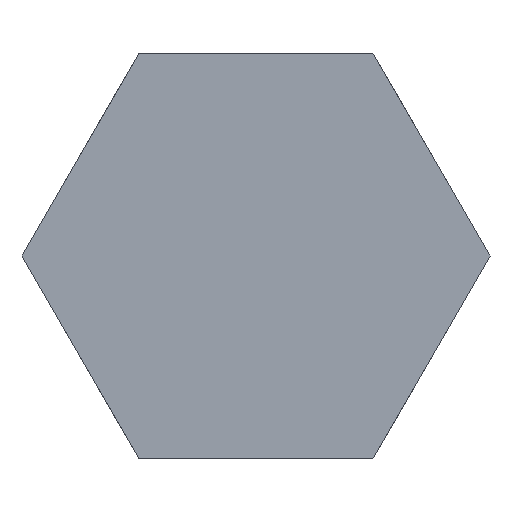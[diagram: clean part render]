
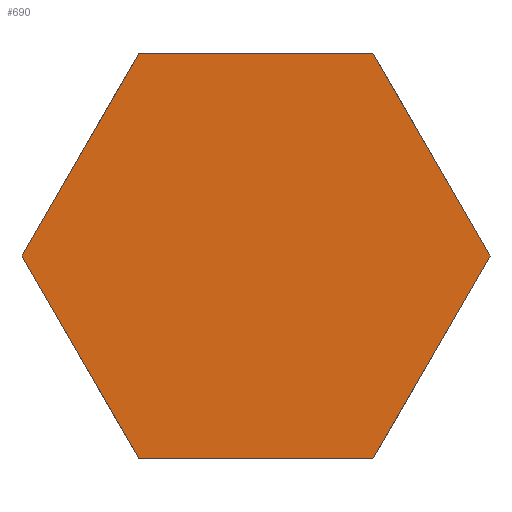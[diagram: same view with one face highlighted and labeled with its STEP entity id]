
A CAD part, front view. The second image highlights one B-rep face of the part: STEP entity #690.
In plain terms, the highlighted planar face has unit normal (0, -1, 0) as drawn and (0, 1, 0) by its records, which use the part's own axes.
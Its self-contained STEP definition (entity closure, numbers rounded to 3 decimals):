
#16 = CARTESIAN_POINT ( 'NONE',  ( 13.856, 10., 0. ) ) ;
#29 = LINE ( 'NONE', #16, #1212 ) ;
#38 = LINE ( 'NONE', #60, #1183 ) ;
#53 = DIRECTION ( 'NONE',  ( -0.5, 0., -0.866 ) ) ;
#60 = CARTESIAN_POINT ( 'NONE',  ( -6.928, 10., 12. ) ) ;
#73 = DIRECTION ( 'NONE',  ( 1., 0., 0. ) ) ;
#143 = CARTESIAN_POINT ( 'NONE',  ( -6.928, 10., -12. ) ) ;
#154 = FACE_OUTER_BOUND ( 'NONE', #420, .T. ) ;
#168 = DIRECTION ( 'NONE',  ( -0.5, 0., 0.866 ) ) ;
#182 = CARTESIAN_POINT ( 'NONE',  ( -13.856, 10., 0. ) ) ;
#194 = DIRECTION ( 'NONE',  ( 0., 0., 1. ) ) ;
#200 = LINE ( 'NONE', #143, #1249 ) ;
#233 = PLANE ( 'NONE',  #1213 ) ;
#243 = DIRECTION ( 'NONE',  ( 0., 1., 0. ) ) ;
#323 = VERTEX_POINT ( 'NONE', #1127 ) ;
#331 = ORIENTED_EDGE ( 'NONE', *, *, #659, .T. ) ;
#335 = VERTEX_POINT ( 'NONE', #339 ) ;
#339 = CARTESIAN_POINT ( 'NONE',  ( -6.928, 10., -12. ) ) ;
#348 = VERTEX_POINT ( 'NONE', #1150 ) ;
#408 = ORIENTED_EDGE ( 'NONE', *, *, #619, .T. ) ;
#420 = EDGE_LOOP ( 'NONE', ( #1146, #484, #1036, #408, #331, #1108 ) ) ;
#436 = VERTEX_POINT ( 'NONE', #1070 ) ;
#484 = ORIENTED_EDGE ( 'NONE', *, *, #613, .T. ) ;
#499 = VERTEX_POINT ( 'NONE', #1038 ) ;
#502 = VERTEX_POINT ( 'NONE', #1061 ) ;
#613 = EDGE_CURVE ( 'NONE', #436, #499, #1046, .T. ) ;
#614 = EDGE_CURVE ( 'NONE', #323, #335, #1042, .T. ) ;
#619 = EDGE_CURVE ( 'NONE', #348, #502, #1052, .T. ) ;
#631 = EDGE_CURVE ( 'NONE', #499, #348, #38, .T. ) ;
#659 = EDGE_CURVE ( 'NONE', #502, #323, #29, .T. ) ;
#669 = EDGE_CURVE ( 'NONE', #335, #436, #200, .T. ) ;
#690 = ADVANCED_FACE ( 'NONE', ( #154 ), #233, .T. ) ;
#1029 = CARTESIAN_POINT ( 'NONE',  ( 6.928, 10., 12. ) ) ;
#1036 = ORIENTED_EDGE ( 'NONE', *, *, #631, .T. ) ;
#1038 = CARTESIAN_POINT ( 'NONE',  ( -6.928, 10., 12. ) ) ;
#1042 = LINE ( 'NONE', #1166, #1198 ) ;
#1046 = LINE ( 'NONE', #1077, #1196 ) ;
#1052 = LINE ( 'NONE', #1029, #1195 ) ;
#1053 = DIRECTION ( 'NONE',  ( 0.5, 0., 0.866 ) ) ;
#1061 = CARTESIAN_POINT ( 'NONE',  ( 13.856, 10., 0. ) ) ;
#1070 = CARTESIAN_POINT ( 'NONE',  ( -13.856, 10., 0. ) ) ;
#1077 = CARTESIAN_POINT ( 'NONE',  ( -13.856, 10., 0. ) ) ;
#1108 = ORIENTED_EDGE ( 'NONE', *, *, #614, .T. ) ;
#1127 = CARTESIAN_POINT ( 'NONE',  ( 6.928, 10., -12. ) ) ;
#1143 = DIRECTION ( 'NONE',  ( 0.5, 0., -0.866 ) ) ;
#1146 = ORIENTED_EDGE ( 'NONE', *, *, #669, .T. ) ;
#1150 = CARTESIAN_POINT ( 'NONE',  ( 6.928, 10., 12. ) ) ;
#1156 = DIRECTION ( 'NONE',  ( -1., 0., 0. ) ) ;
#1166 = CARTESIAN_POINT ( 'NONE',  ( 6.928, 10., -12. ) ) ;
#1183 = VECTOR ( 'NONE', #73, 1000. ) ;
#1195 = VECTOR ( 'NONE', #1143, 1000. ) ;
#1196 = VECTOR ( 'NONE', #1053, 1000. ) ;
#1198 = VECTOR ( 'NONE', #1156, 1000. ) ;
#1212 = VECTOR ( 'NONE', #53, 1000. ) ;
#1213 = AXIS2_PLACEMENT_3D ( 'NONE', #182, #243, #194 ) ;
#1249 = VECTOR ( 'NONE', #168, 1000. ) ;
